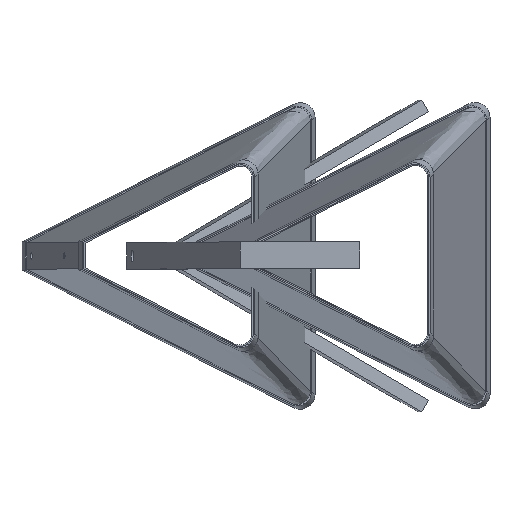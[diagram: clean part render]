
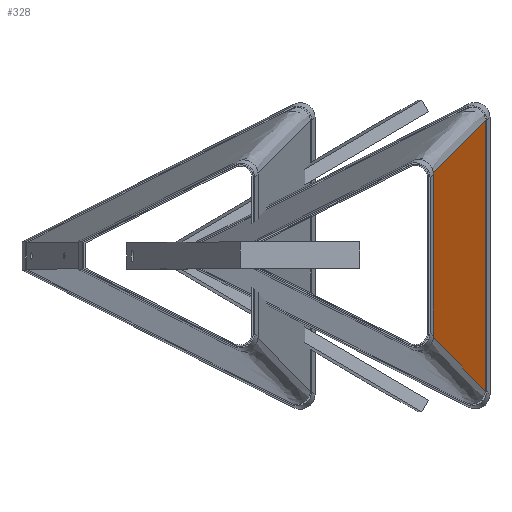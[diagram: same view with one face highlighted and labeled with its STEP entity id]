
A CAD part, top view. The second image highlights one B-rep face of the part: STEP entity #328.
In plain terms, the highlighted planar face has unit normal (0.979, 0, 0.206).
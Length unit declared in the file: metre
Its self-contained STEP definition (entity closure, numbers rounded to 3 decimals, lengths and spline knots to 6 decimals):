
#328 = ADVANCED_FACE( '', ( #461 ), #462, .T. );
#461 = FACE_OUTER_BOUND( '', #2597, .T. );
#462 = PLANE( '', #2598 );
#2597 = EDGE_LOOP( '', ( #5568, #5569, #5570, #5571 ) );
#2598 = AXIS2_PLACEMENT_3D( '', #5572, #5573, #5574 );
#5568 = ORIENTED_EDGE( '', *, *, #5739, .T. );
#5569 = ORIENTED_EDGE( '', *, *, #5732, .F. );
#5570 = ORIENTED_EDGE( '', *, *, #5737, .F. );
#5571 = ORIENTED_EDGE( '', *, *, #5717, .T. );
#5572 = CARTESIAN_POINT( '', ( 0.116674, 0.1045, 0. ) );
#5573 = DIRECTION( '', ( 0.978, 0., 0.207 ) );
#5574 = DIRECTION( '', ( 0.207, 0., -0.978 ) );
#5717 = EDGE_CURVE( '', #5945, #5943, #5946, .T. );
#5732 = EDGE_CURVE( '', #5970, #5972, #5973, .T. );
#5737 = EDGE_CURVE( '', #5945, #5970, #5980, .T. );
#5739 = EDGE_CURVE( '', #5943, #5972, #5982, .T. );
#5943 = VERTEX_POINT( '', #6817 );
#5945 = VERTEX_POINT( '', #6836 );
#5946 = LINE( '', #6837, #6838 );
#5970 = VERTEX_POINT( '', #6975 );
#5972 = VERTEX_POINT( '', #6994 );
#5973 = LINE( '', #6995, #6996 );
#5980 = LINE( '', #7023, #7024 );
#5982 = LINE( '', #7027, #7028 );
#6817 = CARTESIAN_POINT( '', ( 0.116674, 0.1045, 0. ) );
#6836 = CARTESIAN_POINT( '', ( 0.116674, -0.1045, 0. ) );
#6837 = CARTESIAN_POINT( '', ( 0.116674, -0.1045, 0. ) );
#6838 = VECTOR( '', #7145, 1. );
#6975 = CARTESIAN_POINT( '', ( 0.071158, -0.0585, 0.215 ) );
#6994 = CARTESIAN_POINT( '', ( 0.071158, 0.0585, 0.215 ) );
#6995 = CARTESIAN_POINT( '', ( 0.071158, -0.0585, 0.215 ) );
#6996 = VECTOR( '', #7158, 1. );
#7023 = CARTESIAN_POINT( '', ( 0.116674, -0.1045, 0. ) );
#7024 = VECTOR( '', #7162, 1. );
#7027 = CARTESIAN_POINT( '', ( 0.116674, 0.1045, 0. ) );
#7028 = VECTOR( '', #7164, 1. );
#7145 = DIRECTION( '', ( 0., 1., 0. ) );
#7158 = DIRECTION( '', ( 0., 1., 0. ) );
#7162 = DIRECTION( '', ( -0.203, 0.205, 0.958 ) );
#7164 = DIRECTION( '', ( -0.203, -0.205, 0.958 ) );
